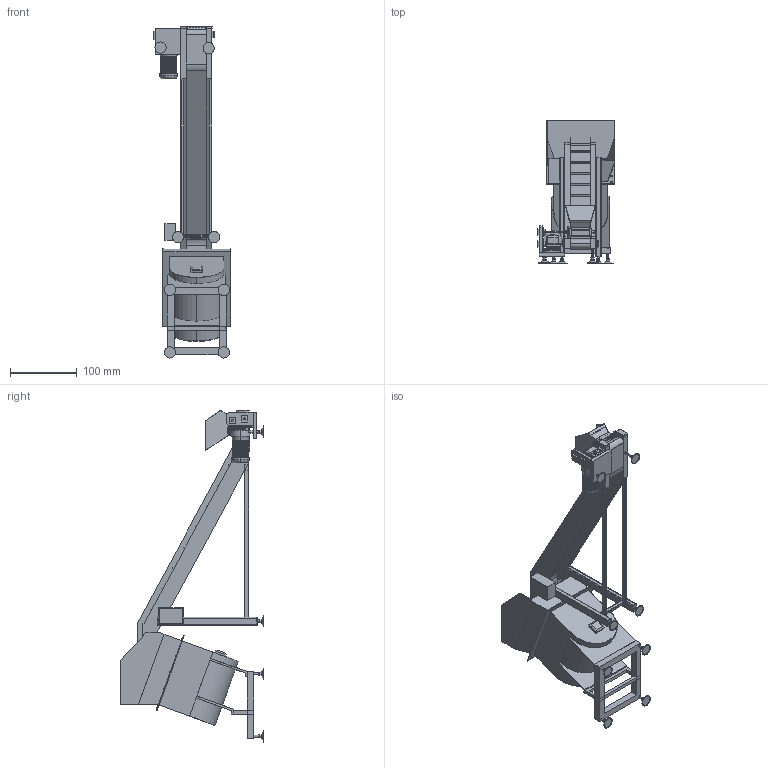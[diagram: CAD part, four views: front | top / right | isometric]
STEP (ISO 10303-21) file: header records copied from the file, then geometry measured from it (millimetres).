
FILE_DESCRIPTION(/* description */ (''),/* implementation_level */ '2;1');
FILE_NAME(/* name */ 'beltconveyor_a020_w30_h180.stp',/* time_stamp */ '2024-12-15T17:56:49+08:00',/* author */ (''),/* organization */ (''),/* preprocessor_version */ 'ST-DEVELOPER v16.7',/* originating_system */ 'SIEMENS PLM Software NX 12.0',/* authorisation */ '');
FILE_SCHEMA (('AUTOMOTIVE_DESIGN { 1 0 10303 214 3 1 1 1 }'));
Products named in the file (10): hopper; Baling Press(Default_As Machined_); shaft; couple; Conveyor chip(Default_As Machined_); gear scraper; scraper; cleated; Jack boltNFJN5-30_1-Scale2; beltconveyor_a020_w30_h180
Assembly tree (22 placements, depth 2):
  beltconveyor_a020_w30_h180
    Jack boltNFJN5-30_1-Scale2  x4
    cleated  x8
    scraper  x2
    gear scraper  x2
    Conveyor chip(Default_As Machined_)
    couple
    shaft  x2
    Baling Press(Default_As Machined_)
    hopper
Bounding box: 115 x 214.67 x 496.2 mm (x, y, z)
Volume: 349613.9 mm3; surface area: 364716.4 mm2
Topology: 119 solids, 119 shells, 3769 faces, 10072 edges, 6597 vertices
Faces by surface type: plane 2079, cylinder 842, extrusion 369, cone 350, torus 126, bspline 3
Full cylindrical faces by diameter (mm): 15 x1
Entity records: 93872 total; most frequent: CARTESIAN_POINT 27054, ORIENTED_EDGE 14640, DIRECTION 11793, EDGE_CURVE 7320, VERTEX_POINT 4804, VECTOR 4455, LINE 4086, AXIS2_PLACEMENT_3D 3669
